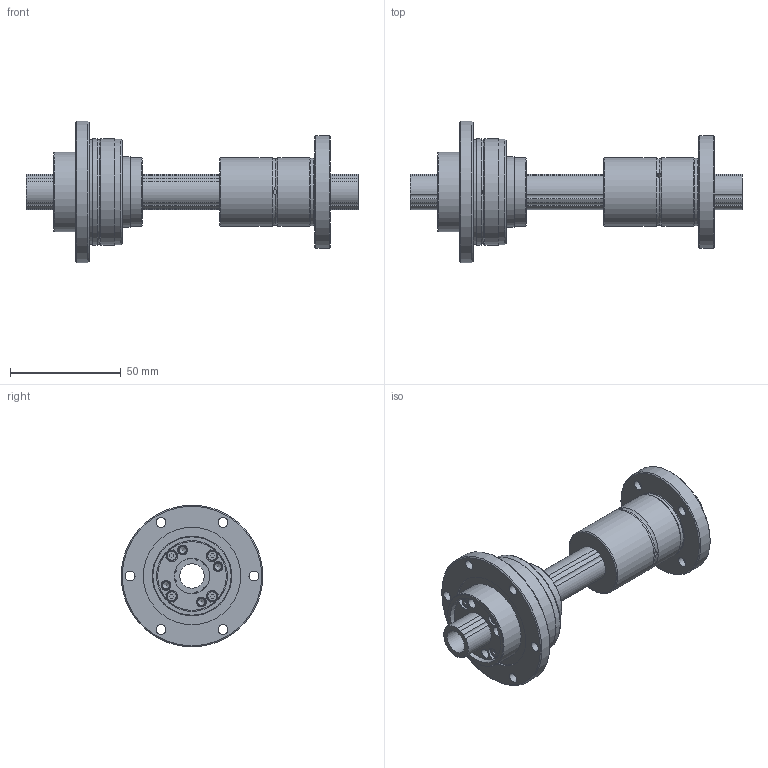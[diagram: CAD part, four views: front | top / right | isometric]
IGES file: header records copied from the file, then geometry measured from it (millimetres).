
Start section: Data from Parasolid IGES Translator 26.0.171, Copyright(c) 2006 Siemens PLM Software. All Rights Reserved.
Global section: file name: NS1616A+150L.igs; native system: By Siemens PLM Incorporated; preprocessor: XPlus GENERIC/IGES 26.0.171; author: Noname; organization: Noname; date: 20250611.084531; units: millimetre
Bounding box: 150 x 64 x 64 mm (x, y, z)
Surface area: 41241.4 mm2 (no closed solid volume)
Topology: 0 solids, 0 shells, 177 faces, 840 edges, 753 vertices
Faces by surface type: revolution 97, extrusion 80
